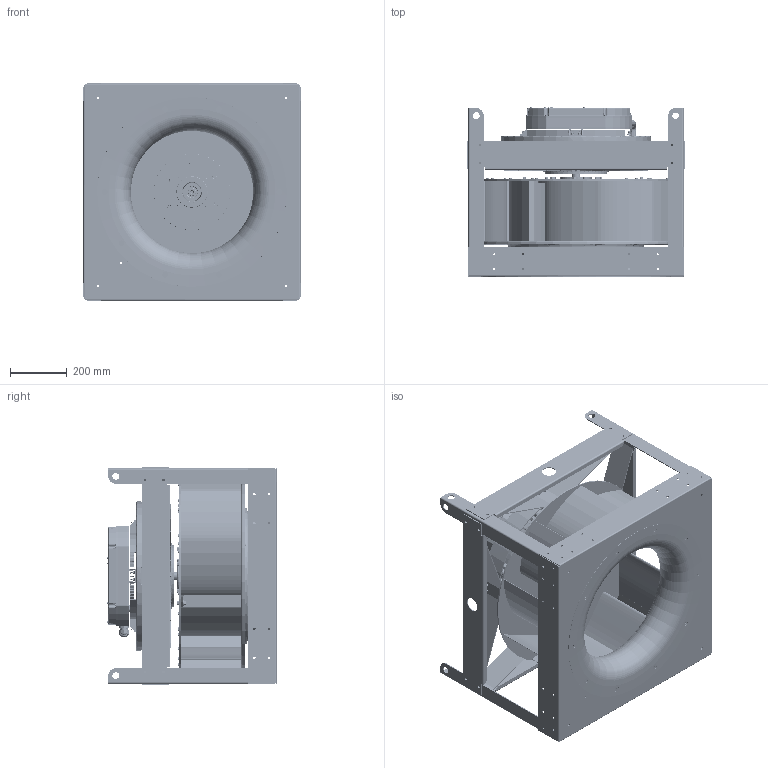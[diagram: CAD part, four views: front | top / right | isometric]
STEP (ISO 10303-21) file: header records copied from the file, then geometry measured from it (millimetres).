
FILE_DESCRIPTION (( 'STEP AP214' ), '1' );
FILE_NAME ('655776.STEP', '2026-06-10T20:26:26', ( '' ), ( '' ), 'SwSTEP 2.0', 'SolidWorks 2023', '' );
FILE_SCHEMA (( 'AUTOMOTIVE_DESIGN' ));
Length unit declared in the file: inch
Products named in the file (18): SXP27 INLET ASSY_655622; 655776; SXPI STRAP_651578; SXP27 INLET_651458; SXP27 WHEEL WELDMENT_655623; SXP27 FP_651456; 651576_651576; 925959CS_925959CS; SXP27 BLADE_651454; SXP27 BP_651457; 941044_941044; 651573_651573; 941768_941768; 651574_651574; 941156_941156; SXP27 WHEEL ASSY_655624; 941153_941153; SXP27 BAFFLE_651459
Assembly tree (82 placements, depth 4):
  655776
    651573_651573
    651574_651574  x4
    651576_651576  x4
    SXPI STRAP_651578  x4
    925959CS_925959CS
    SXP27 WHEEL ASSY_655624
      SXP27 WHEEL WELDMENT_655623
        SXP27 FP_651456
        SXP27 BLADE_651454  x9
        SXP27 BP_651457
        941044_941044  x36
      941768_941768
      941153_941153  x6
      941156_941156  x6
    SXP27 INLET ASSY_655622
      SXP27 INLET_651458
      SXP27 BAFFLE_651459  x4
Bounding box: 765.9 x 598.86 x 765.9 mm (x, y, z)
Volume: 10348087.3 mm3; surface area: 8129182.4 mm2
Topology: 78 solids, 370 shells, 7110 faces, 21067 edges, 14198 vertices
Faces by surface type: plane 2777, cylinder 1749, bspline 1439, cone 779, torus 298, sphere 68
Full cylindrical faces by diameter (mm): 2.9 x2, 4.762 x3, 4.763 x15, 5.105 x16, 5.156 x10, 6 x37, 6.35 x36, 7 x5, 7.137 x48, 7.544 x2, 7.937 x3, 7.938 x1, 8.5 x1, 8.738 x87, 9 x4, 9.525 x12, 9.73 x8, 10 x8, 10.1 x1, 11.8 x16, 12.5 x1, 12.6 x1, 13 x15, 13.208 x36, 14 x1, 14.097 x6, 17.462 x2, 17.463 x2, 19.05 x6, 20.32 x10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
Entity records: 277988 total; most frequent: CARTESIAN_POINT 183108, ORIENTED_EDGE 18626, DIRECTION 17061, EDGE_CURVE 11701, VERTEX_POINT 8404, AXIS2_PLACEMENT_3D 6844, EDGE_LOOP 4966, FACE_OUTER_BOUND 4154
